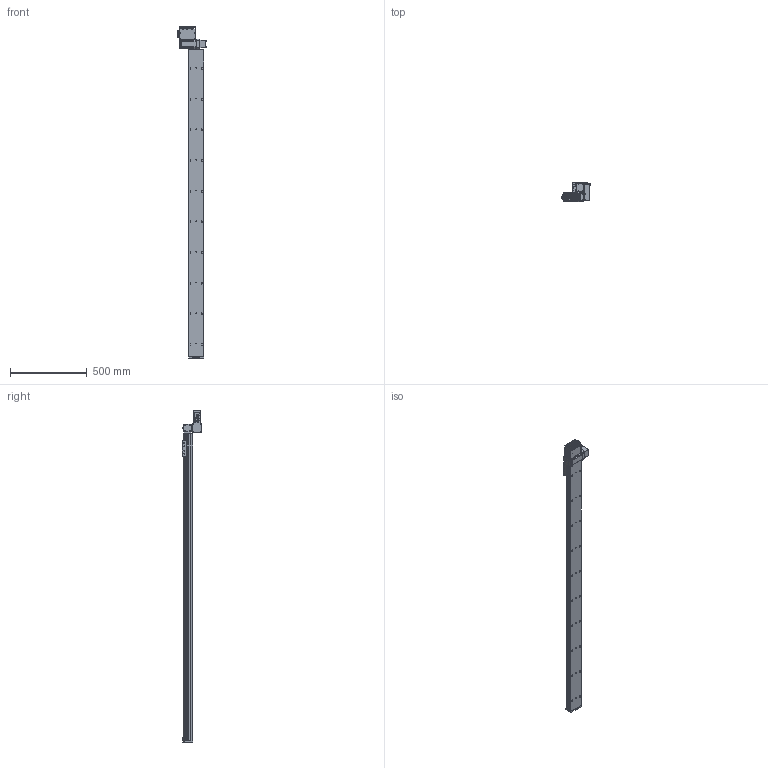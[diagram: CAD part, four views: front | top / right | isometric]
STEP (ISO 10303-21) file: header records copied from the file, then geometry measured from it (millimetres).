
FILE_DESCRIPTION (( 'STEP AP203' ), '1' );
FILE_NAME ('S10 TBH LH S2000.STEP', '2012-06-18T16:03:41', ( 'Conseil Régional Haute-Normandie' ), ( 'Conseil Régional Haute-Normandie' ), 'SwSTEP 2.0', 'SolidWorks 2010', '' );
FILE_SCHEMA (( 'CONFIG_CONTROL_DESIGN' ));
Length unit declared in the file: millimetre
Products named in the file (31): Cvis M5 L30_Default; cache t皻e_Default; vis M5 L12_Default; T_X2_00F4_X0_le contre le moteur_5; BU41 Carte Alimentation P05_3; T_X2_00F4_X0_le fond_3; Connecteur rond D10 3cts_5; Connecteur rond D12 4cts_5; T_X2_00F4_X0_le lat_X2_00E9_X0_rale_5; Vis TF 3 torkx_1_1; S10 TBH LH S2000; cache t皻e axe_Default; renvoi LH_Default; embout; palette tbn; plaque de bout s10_Default; Plaque racord_Default; Vis M5 L16-2_Default_1; vis M5 L5_Default; Vis TF 3 torkx; Assem1_7; Colonnette_3; BU45 Carte d''axe A11_5; Moteur 60BLDC90A_3; Couvercle_3; Sub D 9cts 90_X2_00B_X0__3; Radiateur profil_X2_00E9_X0_ 100x25_3; Colonnette ronde_3; T_X2_00F4_X0_le Arri_X2_00E8_X0_re_5; axe2000; axe 2000
Assembly tree (70 placements, depth 3):
  S10 TBH LH S2000
    palette tbn
    plaque de bout s10_Default
    vis M5 L12_Default  x4
    embout
    axe2000
      axe 2000
    cache t皻e_Default  x2
    Vis M5 L16-2_Default_1  x4
    vis M5 L5_Default  x4
    Vis TF 3 torkx  x7
    cache t皻e axe_Default
    Plaque racord_Default
    renvoi LH_Default
    Cvis M5 L30_Default  x2
    Assem1_7
      Moteur 60BLDC90A_3
      Connecteur rond D10 3cts_5  x2
      Vis TF 3 torkx_1_1  x21
      Colonnette_3  x2
      Connecteur rond D12 4cts_5
      Radiateur profil_X2_00E9_X0_ 100x25_3
      T_X2_00F4_X0_le Arri_X2_00E8_X0_re_5
      BU41 Carte Alimentation P05_3
      T_X2_00F4_X0_le contre le moteur_5
      T_X2_00F4_X0_le lat_X2_00E9_X0_rale_5  x2
      BU45 Carte d''axe A11_5
      Couvercle_3
      Sub D 9cts 90_X2_00B_X0__3
      Colonnette ronde_3
      T_X2_00F4_X0_le fond_3
Bounding box: 189.8 x 124.75 x 2166.5 mm (x, y, z)
Volume: 11218816.4 mm3; surface area: 1258696 mm2
Topology: 68 solids, 68 shells, 2550 faces, 6325 edges, 4083 vertices
Faces by surface type: plane 1220, cylinder 1091, cone 196, bspline 40, torus 3
Entity records: 50368 total; most frequent: CARTESIAN_POINT 8997, DIRECTION 8130, ORIENTED_EDGE 7354, EDGE_CURVE 3677, AXIS2_PLACEMENT_3D 3027, VERTEX_POINT 2399, VECTOR 2076, LINE 2076
